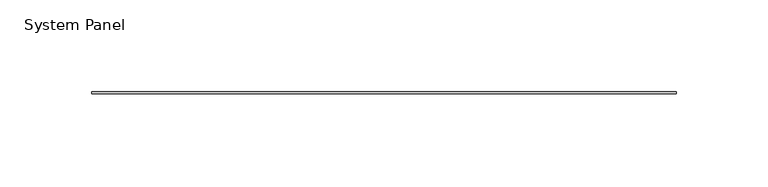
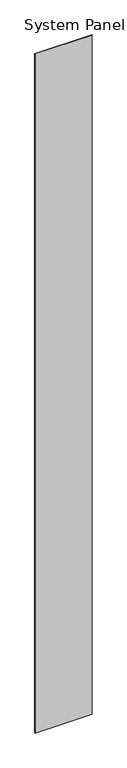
"""IFC4 building model written with IfcOpenShell, lengths in millimetres: plate geometry, System Panel : Stratco_Hiland_Tray."""

from ifc_helpers import new_model, si_unit, origin, origin_with_axes, place, context, project, spatial, polyline, outline, extrude, source, transform, mapped, element, save


def system_panel_68d21e48(model_context):
    return source(origin(), model_context, "Body", "SweptSolid", [
        extrude(outline(polyline([(159.2691801, 2.5), (-159.2691801, 2.5), (-159.2691801, 3.5), (159.2691801, 3.5), (159.2691801, 2.5)])), origin_with_axes(), (0.0, 0.0, 1.0), 4000.0),
    ])


if __name__ == "__main__":
    model = new_model("IFC4")
    model_context = context("Model", 3, world=origin())
    ifc_project = project(units=[si_unit("LENGTHUNIT", "METRE", prefix="MILLI")], contexts=[model_context])
    site = spatial("IfcSite", under=ifc_project)
    building = spatial("IfcBuilding", under=site)
    placement = place(None, origin())
    system_panel_shape = system_panel_68d21e48(model_context)
    element("IfcPlate", 1, ObjectType="System Panel : Stratco_Hiland_Tray", at=placement, inside=building, context=model_context, shape_type="MappedRepresentation", body=[
        mapped(system_panel_shape, transform((0.0, 0.0, 0.0), x_axis=(1.0, 0.0, 0.0), y_axis=(0.0, 1.0, 0.0), z_axis=(0.0, 0.0, 1.0))),
    ])
    save(model, "model.ifc")
